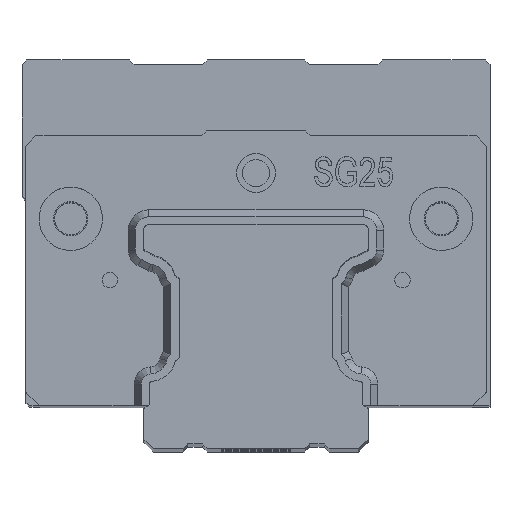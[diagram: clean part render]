
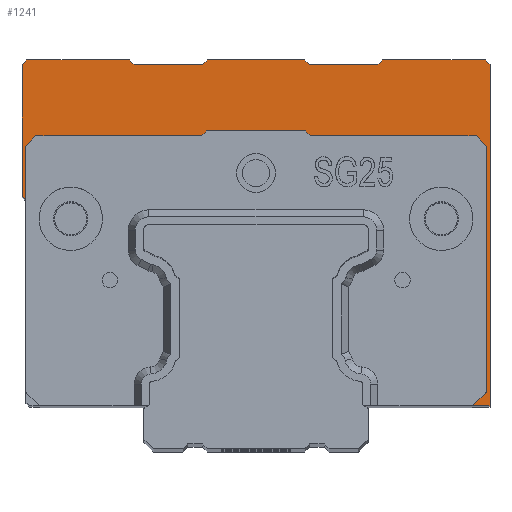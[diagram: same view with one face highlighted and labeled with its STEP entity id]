
A CAD part, top view. The second image highlights one B-rep face of the part: STEP entity #1241.
In plain terms, the highlighted planar face has unit normal (0, 0, 1).
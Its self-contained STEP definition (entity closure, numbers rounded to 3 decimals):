
#818=FACE_OUTER_BOUND('',#3562,.T.);
#1241=ADVANCED_FACE('',(#818),#1689,.F.);
#1689=PLANE('',#8949);
#2032=LINE('',#11970,#2693);
#2039=LINE('',#11984,#2700);
#2040=LINE('',#11987,#2701);
#2041=LINE('',#11989,#2702);
#2042=LINE('',#11991,#2703);
#2043=LINE('',#11993,#2704);
#2044=LINE('',#11995,#2705);
#2045=LINE('',#11997,#2706);
#2046=LINE('',#11999,#2707);
#2047=LINE('',#12001,#2708);
#2048=LINE('',#12003,#2709);
#2049=LINE('',#12005,#2710);
#2050=LINE('',#12006,#2711);
#2051=LINE('',#12008,#2712);
#2052=LINE('',#12010,#2713);
#2053=LINE('',#12012,#2714);
#2054=LINE('',#12014,#2715);
#2055=LINE('',#12016,#2716);
#2056=LINE('',#12018,#2717);
#2057=LINE('',#12020,#2718);
#2058=LINE('',#12022,#2719);
#2059=LINE('',#12024,#2720);
#2060=LINE('',#12026,#2721);
#2061=LINE('',#12028,#2722);
#2062=LINE('',#12030,#2723);
#2693=VECTOR('',#9880,1.);
#2700=VECTOR('',#9889,1.);
#2701=VECTOR('',#9890,1.);
#2702=VECTOR('',#9891,1.);
#2703=VECTOR('',#9892,1.);
#2704=VECTOR('',#9893,1.);
#2705=VECTOR('',#9894,1.);
#2706=VECTOR('',#9895,1.);
#2707=VECTOR('',#9896,1.);
#2708=VECTOR('',#9897,1.);
#2709=VECTOR('',#9898,1.);
#2710=VECTOR('',#9899,1.);
#2711=VECTOR('',#9900,1.);
#2712=VECTOR('',#9901,1.);
#2713=VECTOR('',#9902,1.);
#2714=VECTOR('',#9903,1.);
#2715=VECTOR('',#9904,1.);
#2716=VECTOR('',#9905,1.);
#2717=VECTOR('',#9906,1.);
#2718=VECTOR('',#9907,1.);
#2719=VECTOR('',#9908,1.);
#2720=VECTOR('',#9909,1.);
#2721=VECTOR('',#9910,1.);
#2722=VECTOR('',#9911,1.);
#2723=VECTOR('',#9912,1.);
#3562=EDGE_LOOP('',(#4452,#4453,#4454,#4455,#4456,#4457,#4458,#4459,#4460,
#4461,#4462,#4463,#4464,#4465,#4466,#4467,#4468,#4469,#4470,#4471,#4472,
#4473,#4474,#4475,#4476));
#4452=ORIENTED_EDGE('',*,*,#7552,.T.);
#4453=ORIENTED_EDGE('',*,*,#7553,.T.);
#4454=ORIENTED_EDGE('',*,*,#7554,.F.);
#4455=ORIENTED_EDGE('',*,*,#7555,.T.);
#4456=ORIENTED_EDGE('',*,*,#7556,.T.);
#4457=ORIENTED_EDGE('',*,*,#7557,.T.);
#4458=ORIENTED_EDGE('',*,*,#7558,.T.);
#4459=ORIENTED_EDGE('',*,*,#7559,.T.);
#4460=ORIENTED_EDGE('',*,*,#7560,.F.);
#4461=ORIENTED_EDGE('',*,*,#7561,.T.);
#4462=ORIENTED_EDGE('',*,*,#7562,.F.);
#4463=ORIENTED_EDGE('',*,*,#7545,.T.);
#4464=ORIENTED_EDGE('',*,*,#7563,.T.);
#4465=ORIENTED_EDGE('',*,*,#7564,.T.);
#4466=ORIENTED_EDGE('',*,*,#7565,.T.);
#4467=ORIENTED_EDGE('',*,*,#7566,.T.);
#4468=ORIENTED_EDGE('',*,*,#7567,.T.);
#4469=ORIENTED_EDGE('',*,*,#7568,.T.);
#4470=ORIENTED_EDGE('',*,*,#7569,.T.);
#4471=ORIENTED_EDGE('',*,*,#7570,.T.);
#4472=ORIENTED_EDGE('',*,*,#7571,.T.);
#4473=ORIENTED_EDGE('',*,*,#7572,.T.);
#4474=ORIENTED_EDGE('',*,*,#7573,.T.);
#4475=ORIENTED_EDGE('',*,*,#7574,.T.);
#4476=ORIENTED_EDGE('',*,*,#7575,.T.);
#6654=VERTEX_POINT('',#11969);
#6655=VERTEX_POINT('',#11971);
#6661=VERTEX_POINT('',#11985);
#6662=VERTEX_POINT('',#11986);
#6663=VERTEX_POINT('',#11988);
#6664=VERTEX_POINT('',#11990);
#6665=VERTEX_POINT('',#11992);
#6666=VERTEX_POINT('',#11994);
#6667=VERTEX_POINT('',#11996);
#6668=VERTEX_POINT('',#11998);
#6669=VERTEX_POINT('',#12000);
#6670=VERTEX_POINT('',#12002);
#6671=VERTEX_POINT('',#12004);
#6672=VERTEX_POINT('',#12007);
#6673=VERTEX_POINT('',#12009);
#6674=VERTEX_POINT('',#12011);
#6675=VERTEX_POINT('',#12013);
#6676=VERTEX_POINT('',#12015);
#6677=VERTEX_POINT('',#12017);
#6678=VERTEX_POINT('',#12019);
#6679=VERTEX_POINT('',#12021);
#6680=VERTEX_POINT('',#12023);
#6681=VERTEX_POINT('',#12025);
#6682=VERTEX_POINT('',#12027);
#6683=VERTEX_POINT('',#12029);
#7545=EDGE_CURVE('',#6655,#6654,#2032,.T.);
#7552=EDGE_CURVE('',#6661,#6662,#2039,.T.);
#7553=EDGE_CURVE('',#6662,#6663,#2040,.T.);
#7554=EDGE_CURVE('',#6664,#6663,#2041,.T.);
#7555=EDGE_CURVE('',#6664,#6665,#2042,.T.);
#7556=EDGE_CURVE('',#6665,#6666,#2043,.T.);
#7557=EDGE_CURVE('',#6666,#6667,#2044,.T.);
#7558=EDGE_CURVE('',#6667,#6668,#2045,.T.);
#7559=EDGE_CURVE('',#6668,#6669,#2046,.T.);
#7560=EDGE_CURVE('',#6670,#6669,#2047,.T.);
#7561=EDGE_CURVE('',#6670,#6671,#2048,.T.);
#7562=EDGE_CURVE('',#6655,#6671,#2049,.T.);
#7563=EDGE_CURVE('',#6654,#6672,#2050,.T.);
#7564=EDGE_CURVE('',#6672,#6673,#2051,.T.);
#7565=EDGE_CURVE('',#6673,#6674,#2052,.T.);
#7566=EDGE_CURVE('',#6674,#6675,#2053,.T.);
#7567=EDGE_CURVE('',#6675,#6676,#2054,.T.);
#7568=EDGE_CURVE('',#6676,#6677,#2055,.T.);
#7569=EDGE_CURVE('',#6677,#6678,#2056,.T.);
#7570=EDGE_CURVE('',#6678,#6679,#2057,.T.);
#7571=EDGE_CURVE('',#6679,#6680,#2058,.T.);
#7572=EDGE_CURVE('',#6680,#6681,#2059,.T.);
#7573=EDGE_CURVE('',#6681,#6682,#2060,.T.);
#7574=EDGE_CURVE('',#6682,#6683,#2061,.T.);
#7575=EDGE_CURVE('',#6683,#6661,#2062,.T.);
#8949=AXIS2_PLACEMENT_3D('',#12031,#9913,#9914);
#9880=DIRECTION('',(1.,0.,0.));
#9889=DIRECTION('',(0.707,-0.707,0.));
#9890=DIRECTION('',(0.,1.,0.));
#9891=DIRECTION('',(-0.707,-0.707,0.));
#9892=DIRECTION('',(1.,0.,0.));
#9893=DIRECTION('',(0.707,0.707,0.));
#9894=DIRECTION('',(1.,0.,0.));
#9895=DIRECTION('',(0.707,-0.707,0.));
#9896=DIRECTION('',(1.,0.,0.));
#9897=DIRECTION('',(-0.707,0.707,0.));
#9898=DIRECTION('',(0.,-1.,0.));
#9899=DIRECTION('',(0.707,0.707,0.));
#9900=DIRECTION('',(0.,1.,0.));
#9901=DIRECTION('',(-0.707,0.707,0.));
#9902=DIRECTION('',(-1.,0.,0.));
#9903=DIRECTION('',(-0.707,-0.707,0.));
#9904=DIRECTION('',(-1.,0.,0.));
#9905=DIRECTION('',(-0.707,0.707,0.));
#9906=DIRECTION('',(-1.,0.,0.));
#9907=DIRECTION('',(-0.707,-0.707,0.));
#9908=DIRECTION('',(-1.,0.,0.));
#9909=DIRECTION('',(-0.707,0.707,0.));
#9910=DIRECTION('',(-1.,0.,0.));
#9911=DIRECTION('',(-0.707,-0.707,0.));
#9912=DIRECTION('',(0.,-1.,0.));
#9913=DIRECTION('',(0.,0.,-1.));
#9914=DIRECTION('',(1.,0.,0.));
#11969=CARTESIAN_POINT('',(15.786,-6.749,232.443));
#11970=CARTESIAN_POINT('',(-31.414,-6.749,232.443));
#11971=CARTESIAN_POINT('',(13.991,-6.749,232.443));
#11984=CARTESIAN_POINT('',(-32.214,14.751,232.443));
#11985=CARTESIAN_POINT('',(-32.214,14.751,232.443));
#11986=CARTESIAN_POINT('',(-31.847,14.384,232.443));
#11987=CARTESIAN_POINT('',(-31.847,7.318,232.443));
#11988=CARTESIAN_POINT('',(-31.847,19.872,232.443));
#11989=CARTESIAN_POINT('',(-26.307,25.412,232.443));
#11990=CARTESIAN_POINT('',(-30.781,20.938,232.443));
#11991=CARTESIAN_POINT('',(-46.714,20.938,232.443));
#11992=CARTESIAN_POINT('',(-13.791,20.938,232.443));
#11993=CARTESIAN_POINT('',(-17.812,16.917,232.443));
#11994=CARTESIAN_POINT('',(-13.291,21.438,232.443));
#11995=CARTESIAN_POINT('',(-46.714,21.438,232.443));
#11996=CARTESIAN_POINT('',(-3.136,21.438,232.443));
#11997=CARTESIAN_POINT('',(1.385,16.917,232.443));
#11998=CARTESIAN_POINT('',(-2.636,20.938,232.443));
#11999=CARTESIAN_POINT('',(-8.214,20.938,232.443));
#12000=CARTESIAN_POINT('',(14.353,20.938,232.443));
#12001=CARTESIAN_POINT('',(9.88,25.412,232.443));
#12002=CARTESIAN_POINT('',(15.419,19.872,232.443));
#12003=CARTESIAN_POINT('',(15.419,-8.324,232.443));
#12004=CARTESIAN_POINT('',(15.419,-5.32,232.443));
#12005=CARTESIAN_POINT('',(-17.149,-37.889,232.443));
#12006=CARTESIAN_POINT('',(15.786,-6.749,232.443));
#12007=CARTESIAN_POINT('',(15.786,28.251,232.443));
#12008=CARTESIAN_POINT('',(15.786,28.251,232.443));
#12009=CARTESIAN_POINT('',(15.286,28.751,232.443));
#12010=CARTESIAN_POINT('',(15.286,28.751,232.443));
#12011=CARTESIAN_POINT('',(4.786,28.751,232.443));
#12012=CARTESIAN_POINT('',(4.786,28.751,232.443));
#12013=CARTESIAN_POINT('',(4.286,28.251,232.443));
#12014=CARTESIAN_POINT('',(4.286,28.251,232.443));
#12015=CARTESIAN_POINT('',(-2.714,28.251,232.443));
#12016=CARTESIAN_POINT('',(-2.714,28.251,232.443));
#12017=CARTESIAN_POINT('',(-3.214,28.751,232.443));
#12018=CARTESIAN_POINT('',(-3.214,28.751,232.443));
#12019=CARTESIAN_POINT('',(-13.214,28.751,232.443));
#12020=CARTESIAN_POINT('',(-13.214,28.751,232.443));
#12021=CARTESIAN_POINT('',(-13.714,28.251,232.443));
#12022=CARTESIAN_POINT('',(-13.714,28.251,232.443));
#12023=CARTESIAN_POINT('',(-20.714,28.251,232.443));
#12024=CARTESIAN_POINT('',(-20.714,28.251,232.443));
#12025=CARTESIAN_POINT('',(-21.214,28.751,232.443));
#12026=CARTESIAN_POINT('',(-21.214,28.751,232.443));
#12027=CARTESIAN_POINT('',(-31.714,28.751,232.443));
#12028=CARTESIAN_POINT('',(-31.714,28.751,232.443));
#12029=CARTESIAN_POINT('',(-32.214,28.251,232.443));
#12030=CARTESIAN_POINT('',(-32.214,28.251,232.443));
#12031=CARTESIAN_POINT('',(18.186,-8.524,232.443));
